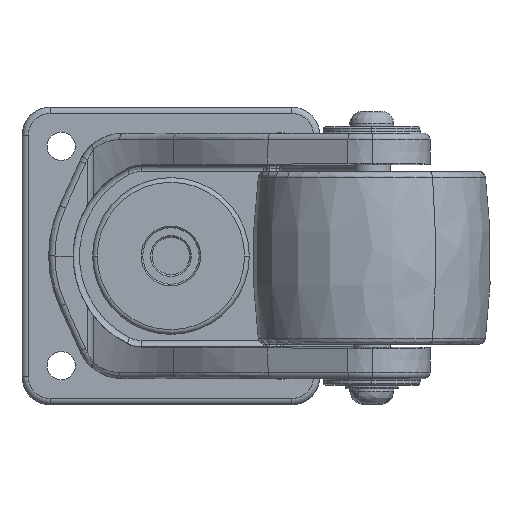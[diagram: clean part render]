
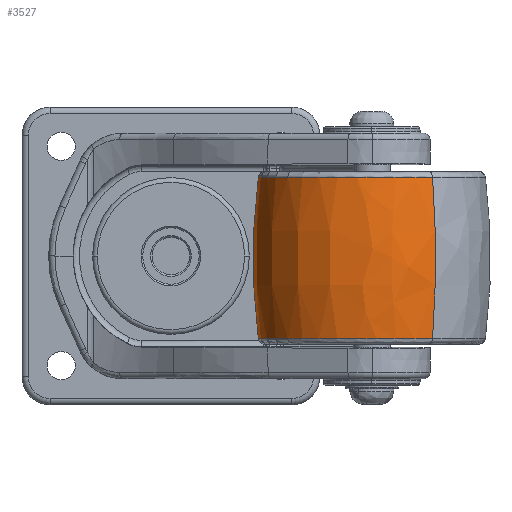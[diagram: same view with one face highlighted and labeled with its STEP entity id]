
A CAD part, front view. The second image highlights one B-rep face of the part: STEP entity #3527.
In plain terms, the highlighted free-form (B-spline) face has degree [3, 3] with [4, 4] control points.
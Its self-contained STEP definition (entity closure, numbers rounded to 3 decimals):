
#157=(
BOUNDED_SURFACE()
B_SPLINE_SURFACE(3,3,((#23813,#23814,#23815,#23816),(#23817,#23818,#23819,
#23820),(#23821,#23822,#23823,#23824),(#23825,#23826,#23827,#23828)),
 .UNSPECIFIED.,.F.,.F.,.F.)
B_SPLINE_SURFACE_WITH_KNOTS((4,4),(4,4),(0.,1.),(0.,1.),.UNSPECIFIED.)
GEOMETRIC_REPRESENTATION_ITEM()
RATIONAL_B_SPLINE_SURFACE(((1.,0.333,0.333,1.),
(0.994,0.331,0.331,0.994),
(0.994,0.331,0.331,0.994),
(1.,0.333,0.333,1.)))
REPRESENTATION_ITEM('')
SURFACE()
);
#3527=ADVANCED_FACE('',(#4455),#157,.T.);
#4455=FACE_OUTER_BOUND('',#5357,.T.);
#5357=EDGE_LOOP('',(#7991,#7992,#7993,#7994));
#7991=ORIENTED_EDGE('',*,*,#12210,.F.);
#7992=ORIENTED_EDGE('',*,*,#12211,.T.);
#7993=ORIENTED_EDGE('',*,*,#12212,.T.);
#7994=ORIENTED_EDGE('',*,*,#12213,.F.);
#10542=VERTEX_POINT('',#23806);
#10543=VERTEX_POINT('',#23807);
#10544=VERTEX_POINT('',#23809);
#10545=VERTEX_POINT('',#23811);
#12210=EDGE_CURVE('',#10542,#10543,#13747,.T.);
#12211=EDGE_CURVE('',#10542,#10544,#13748,.T.);
#12212=EDGE_CURVE('',#10544,#10545,#13749,.T.);
#12213=EDGE_CURVE('',#10543,#10545,#13750,.T.);
#13747=CIRCLE('',#15196,36.245);
#13748=CIRCLE('',#15197,190.063);
#13749=CIRCLE('',#15198,36.245);
#13750=CIRCLE('',#15199,190.062);
#15196=AXIS2_PLACEMENT_3D('',#23805,#18445,#18446);
#15197=AXIS2_PLACEMENT_3D('',#23808,#18447,#18448);
#15198=AXIS2_PLACEMENT_3D('',#23810,#18449,#18450);
#15199=AXIS2_PLACEMENT_3D('',#23812,#18451,#18452);
#18445=DIRECTION('',(0.,0.,1.));
#18446=DIRECTION('',(0.,1.,0.));
#18447=DIRECTION('',(-0.845,-0.534,0.));
#18448=DIRECTION('',(-0.529,0.837,0.136));
#18449=DIRECTION('',(0.,0.,1.));
#18450=DIRECTION('',(0.,-1.,0.));
#18451=DIRECTION('',(0.845,0.534,0.));
#18452=DIRECTION('',(0.529,-0.837,0.136));
#23805=CARTESIAN_POINT('',(66.799,-61.022,-10.561));
#23806=CARTESIAN_POINT('',(47.431,-30.386,-10.561));
#23807=CARTESIAN_POINT('',(86.167,-91.658,-10.561));
#23808=CARTESIAN_POINT('',(148.056,-189.554,-36.333));
#23809=CARTESIAN_POINT('',(47.431,-30.386,-62.104));
#23810=CARTESIAN_POINT('',(66.799,-61.022,-62.104));
#23811=CARTESIAN_POINT('',(86.167,-91.658,-62.104));
#23812=CARTESIAN_POINT('',(-14.458,67.509,-36.333));
#23813=CARTESIAN_POINT('',(47.431,-30.386,-10.561));
#23814=CARTESIAN_POINT('',(-13.84,-69.122,-10.561));
#23815=CARTESIAN_POINT('',(24.895,-130.394,-10.561));
#23816=CARTESIAN_POINT('',(86.167,-91.658,-10.561));
#23817=CARTESIAN_POINT('',(46.179,-28.405,-27.689));
#23818=CARTESIAN_POINT('',(-19.056,-69.646,-27.689));
#23819=CARTESIAN_POINT('',(22.185,-134.88,-27.689));
#23820=CARTESIAN_POINT('',(87.42,-93.639,-27.689));
#23821=CARTESIAN_POINT('',(46.179,-28.405,-44.976));
#23822=CARTESIAN_POINT('',(-19.056,-69.646,-44.976));
#23823=CARTESIAN_POINT('',(22.185,-134.88,-44.976));
#23824=CARTESIAN_POINT('',(87.42,-93.639,-44.976));
#23825=CARTESIAN_POINT('',(47.431,-30.386,-62.104));
#23826=CARTESIAN_POINT('',(-13.84,-69.122,-62.104));
#23827=CARTESIAN_POINT('',(24.895,-130.394,-62.104));
#23828=CARTESIAN_POINT('',(86.167,-91.658,-62.104));
